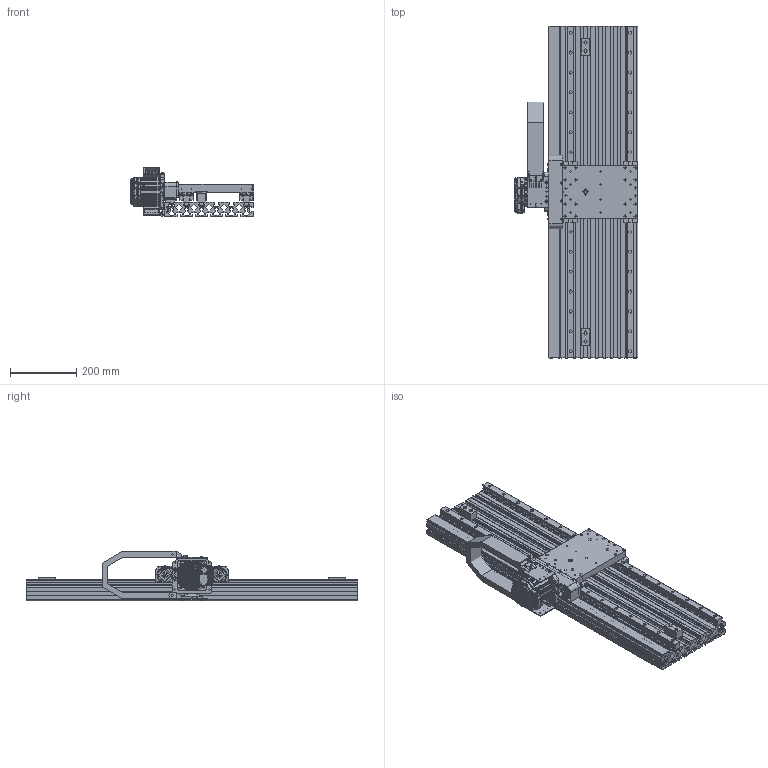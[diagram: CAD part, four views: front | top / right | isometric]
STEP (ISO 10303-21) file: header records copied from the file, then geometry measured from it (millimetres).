
FILE_DESCRIPTION( ( '' ), ' ' );
FILE_NAME( '/vol/tmp/translate-12865584016639289806/5c7ea6c48114d5171430919e.step', '2019-03-05T16:41:46', ( '' ), ( '' ), ' ', ' ', ' ' );
FILE_SCHEMA( ( 'AUTOMOTIVE_DESIGN { 1 0 10303 214 1 1 1 1 }' ) );
Length unit declared in the file: metre
Products named in the file (107): RAIL FASTENERS <15>; 100001-8065 M5-.80 X 25 ALLOY SHCS; 102684-001 BOSCH 10mm T-BLOCK M5; 20mm BEARING RAIL CAP; RAIL FASTENERS <1>; RAIL FASTENERS <13>; RAIL FASTENERS <5>; TRAY FASTENERS <1>; #8869; #8877; TRAY FASTENERS <5>; RAIL FASTENERS <11>; RAIL FASTENERS <6>; RAIL FASTENERS <3>; RAIL FASTENERS <10>; RAIL FASTENERS <7>; RAIL FASTENERS <12>; RAIL FASTENERS <9>; RAIL FASTENERS <14>; RAIL FASTENERS <2>; RAIL FASTENERS <17>; RAIL FASTENERS <16>; RAIL FASTENERS <8>; TRAY FASTENERS <2>; TRAY FASTENERS <3>; TRAY FASTENERS <4>; RAIL FASTENERS <4>; POLYURETHANE BUMPLER <1>; 100003-015 3/8 SS FLAT WASHER; 100001-028 3/8-16 SS SOCKET HEAD CAP SCREW; 100033-001 3/8-16 POLYURETHANE BUMPER; 104587-001 SBL-M DYNAMIC BEARING ASSEMBLY <2>; 103126-001 SBL-M BEARING SHAFT; 102638-005 5202 SHIELDED DOUBLE ROW BALL BEARING; TRAY <1>; 102610-005 VHB TAPE 1-1/4 WIDE; 102656-1000 SBL-M BELT TRAY; 102567-001 T5 X 32mm BELTING; CPM34XX & PINION <1>; 100013-008 M4 X 6 SS SET SCREW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
Assembly tree (285 placements, depth 5):
  Assem1
    102977-001 LINKS
    107170-001 SBL-M-LT DRIVE BLOCK ASSEMBLY WITH COVER <1>
      100006-004 M4-.70 X 8 SS BHCS  x4
      100006-013 M8 X 12 SS BHCS  x2
      100081-015 0.07 W X 0.551 ID BUN-N O-RING  x6
      102653-002 BEARING SPACER  x2
      100001-061 M5-.80 X 12 SS SHCS  x2
      100001-068 M5-.80 X 40 SS SHCS  x4
      100021-061 RADIAL BEARING 6302ZZ  x4
      105446-001 SBL-M LOOPTRACK BELT COVER
      105427-001 SBL-M-LT DRIVE MOUNT
      100003-048 M8 SS FENDER WASHER  x2
      103757-100 T5 BELT 100T X 32 WIDE
      105323-001 KEY 4mm SQUARE X 16mm LONG
      104587-001 SBL-M DYNAMIC BEARING ASSEMBLY <2>
        103126-001 SBL-M BEARING SHAFT
        102638-005 5202 SHIELDED DOUBLE ROW BALL BEARING  x2
      104587-001 SBL-M DYNAMIC BEARING ASSEMBLY <1>
        103126-001 SBL-M BEARING SHAFT
        102638-005 5202 SHIELDED DOUBLE ROW BALL BEARING  x2
    LEFT <1>
      100006-052 M5-.80 X 8 SS BHCS  x2
      100002-011 M3 X 6 SS FH X-RECESS SCREW  x4
      100013-016 M6 X 10 SS SET SCREW  x2
      102977-001 (POC) IGUS E-CHAIN BRACKET WITH PIN
      102821-010 SERVOBELT UPPER IGUS BRACKET
      104009-001 LOWER E-CHAIN BRACKET MOUNT
    106617-002 HIGH M8 <2>
      100001-8117 M8-1.25 X 25 ALLOY SHCS  x2
      102684-003 BOSCH 10mm T-BLOCK M8  x2
      106617-002 HARD STOP BLOCK M8
    1000 CHASSIS <1>
      102928-1000 45-SERIES PROFILE 45X270H
      RAIL <2>
        102732-1000 20mm STANDARD GUIDE RAIL
        106888-001 20mm RAIL COVER
        RAIL FASTENERS <10>
          20mm BEARING RAIL CAP
          102684-001 BOSCH 10mm T-BLOCK M5
          100001-8065 M5-.80 X 25 ALLOY SHCS
        RAIL FASTENERS <1>
          100001-8065 M5-.80 X 25 ALLOY SHCS
          102684-001 BOSCH 10mm T-BLOCK M5
          20mm BEARING RAIL CAP
        RAIL FASTENERS <16>
          100001-8065 M5-.80 X 25 ALLOY SHCS
          20mm BEARING RAIL CAP
          102684-001 BOSCH 10mm T-BLOCK M5
        RAIL FASTENERS <12>
          20mm BEARING RAIL CAP
          102684-001 BOSCH 10mm T-BLOCK M5
          100001-8065 M5-.80 X 25 ALLOY SHCS
        RAIL FASTENERS <2>
          20mm BEARING RAIL CAP
          100001-8065 M5-.80 X 25 ALLOY SHCS
          102684-001 BOSCH 10mm T-BLOCK M5
        RAIL FASTENERS <13>
          100001-8065 M5-.80 X 25 ALLOY SHCS
          20mm BEARING RAIL CAP
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Bounding box: 372.42 x 1000 x 150.3 mm (x, y, z)
Topology: 255 solids, 260 shells, 10197 faces, 26008 edges, 16538 vertices
Faces by surface type: plane 4517, cylinder 2806, bspline 1034, torus 927, cone 724, sphere 147, extrusion 40, revolution 2
Full cylindrical faces by diameter (mm): 0.152 x1, 2.2 x31, 2.261 x25, 2.44 x25, 2.47 x4, 2.5 x32, 2.6 x8, 2.66 x8, 2.997 x4, 3 x12, 3.175 x1, 3.184 x1, 3.2 x4, 3.3 x9, 3.4 x2, 3.454 x5, 4 x6, 4.166 x5, 4.2 x13, 4.216 x16, 4.5 x7, 4.8 x4, 5 x66, 5.004 x60, 5.156 x5, 5.284 x1, 5.5 x60, 5.563 x12, 5.6 x4, 5.85 x8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
Entity records: 371327 total; most frequent: CARTESIAN_POINT 142356, ORIENTED_EDGE 35082, DIRECTION 34979, EDGE_CURVE 17541, AXIS2_PLACEMENT_3D 13798, VERTEX_POINT 11613, EDGE_LOOP 8835, FACE_OUTER_BOUND 8028
